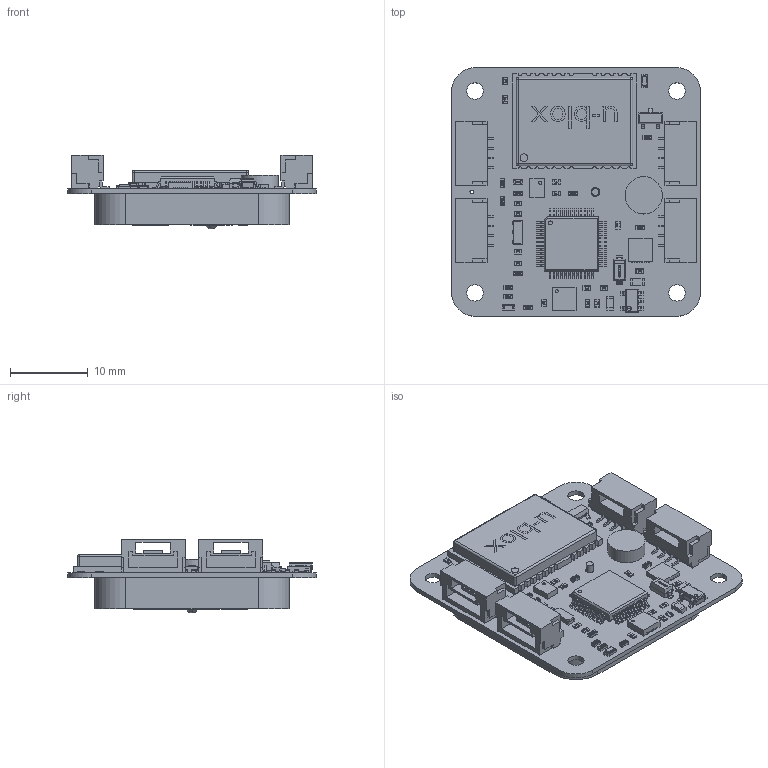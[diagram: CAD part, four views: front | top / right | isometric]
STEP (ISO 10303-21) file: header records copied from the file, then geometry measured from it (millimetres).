
FILE_DESCRIPTION(('Open CASCADE Model'),'2;1');
FILE_NAME('Open CASCADE Shape Model','2020-10-07T20:14:41',('Author'),( 'Open CASCADE'),'Open CASCADE STEP processor 6.8','Open CASCADE 6.8' ,'Unknown');
FILE_SCHEMA(('AUTOMOTIVE_DESIGN { 1 0 10303 214 1 1 1 1 }'));
Length unit declared in the file: millimetre
Products named in the file (106): PCB; Board; Open CASCADE STEP translator 6.8 1.1.1; R21; User_Library-RES_1005-0402; R20; R4; R3; GH-4; SM04B-GHS-TB_RGB14474460; C-BKP; 6033918368; Cylinder; ANTENNA; CGGBP.25.4.A.02_RGB15987699; GH-3; C19; 0402_SMD_Capacitor; C18; BARO; 6033919568; 6033919328; Extruded; D1; SOD123; C2; 6033920848; 6033920528; 6033926288; GH-2; LED-G; LED0603(G); R0; Q1; SOT23; C28; C27; C26; C25; C22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
Assembly tree (144 placements, depth 4):
  PCB
    Board
      Open CASCADE STEP translator 6.8 1.1.1
    R21
      User_Library-RES_1005-0402
    R20
      User_Library-RES_1005-0402
    R4
      User_Library-RES_1005-0402
    R3
      User_Library-RES_1005-0402
    GH-4
      SM04B-GHS-TB_RGB14474460
    C-BKP
      6033918368
        Cylinder
    ANTENNA
      CGGBP.25.4.A.02_RGB15987699
    GH-3
      SM04B-GHS-TB_RGB14474460
    C19
      0402_SMD_Capacitor
    C18
      0402_SMD_Capacitor
    BARO
      6033919568
        Cylinder
      6033919328
        Extruded
    D1
      SOD123
    C2
      6033920848
        Extruded
      6033920528
        Extruded
      6033926288
        Extruded
    GH-2
      SM04B-GHS-TB_RGB14474460
    LED-G
      LED0603(G)
    R0
      User_Library-RES_1005-0402
    Q1
      SOT23
    C28
      0402_SMD_Capacitor
    C27
      0402_SMD_Capacitor
    C26
      0402_SMD_Capacitor
    C25
      0402_SMD_Capacitor
    C22
      0402_SMD_Capacitor
    C21
      0402_SMD_Capacitor
    MAG
      QFN16_3x3
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Bounding box: 32 x 32 x 9.47 mm (x, y, z)
Volume: 4005.2 mm3; surface area: 5817.8 mm2
Topology: 117 solids, 117 shells, 4644 faces, 11753 edges, 7503 vertices
Faces by surface type: plane 3093, bspline 807, cylinder 604, sphere 138, revolution 2
Full cylindrical faces by diameter (mm): 0.4 x1, 0.5 x1, 1.1 x1, 2.1 x4, 4.8 x1
Entity records: 93541 total; most frequent: CARTESIAN_POINT 24637, ORIENTED_EDGE 11626, DIRECTION 9858, EDGE_CURVE 5813, LINE 4472, VECTOR 4472, VERTEX_POINT 3837, AXIS2_PLACEMENT_3D 2692
